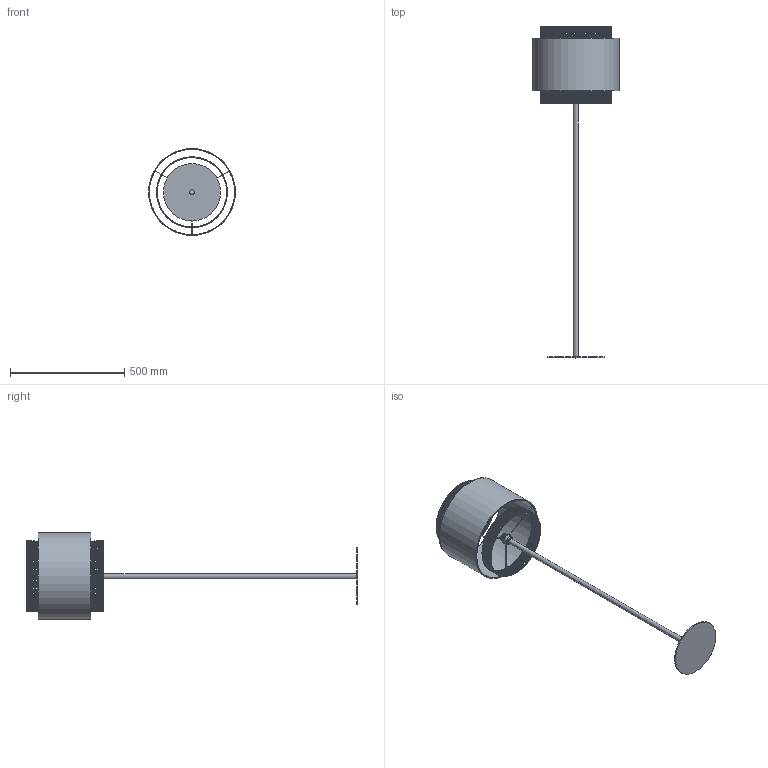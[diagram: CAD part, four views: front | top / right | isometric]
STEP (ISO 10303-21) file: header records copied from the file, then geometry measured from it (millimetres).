
FILE_DESCRIPTION(/* description */ (''),/* implementation_level */ '2;1');
FILE_NAME(/* name */ 'C:/Users/kubaw/OneDrive/Pulpit/Nowy folder (3)/5568_BOHO v3.step',/* time_stamp */ '2021-12-11T10:15:36+01:00',/* author */ (''),/* organization */ (''),/* preprocessor_version */ 'ST-DEVELOPER v18.1',/* originating_system */ 'Autodesk Translation Framework v10.10.0.1391',/* authorisation */ '');
FILE_SCHEMA (('AUTOMOTIVE_DESIGN { 1 0 10303 214 3 1 1 }'));
Products named in the file (2): 5568_BOHO; MOCOWANIE_BOHO
Assembly tree (1 placements, depth 2):
  5568_BOHO
    MOCOWANIE_BOHO
Bounding box: 380 x 1450 x 380 mm (x, y, z)
Volume: 1115719.6 mm3; surface area: 1113371.3 mm2
Topology: 682 solids, 684 shells, 6999 faces, 15618 edges, 9990 vertices
Faces by surface type: bspline 2571, plane 2326, cylinder 2008, torus 94
Full cylindrical faces by diameter (mm): 2.4 x9, 9.216 x1, 22 x1, 23.808 x1, 29.915 x10, 32.256 x1, 34.56 x3, 38.4 x1, 39.6 x1, 39.744 x1, 45.6 x1, 250 x1, 303.182 x4, 306.382 x4, 306.4 x20, 308 x20, 372 x2, 378 x1, 380 x1
Entity records: 319305 total; most frequent: CARTESIAN_POINT 178197, ORIENTED_EDGE 31224, DIRECTION 24530, EDGE_CURVE 15618, VERTEX_POINT 9990, AXIS2_PLACEMENT_3D 8700, LINE 7130, VECTOR 7130
